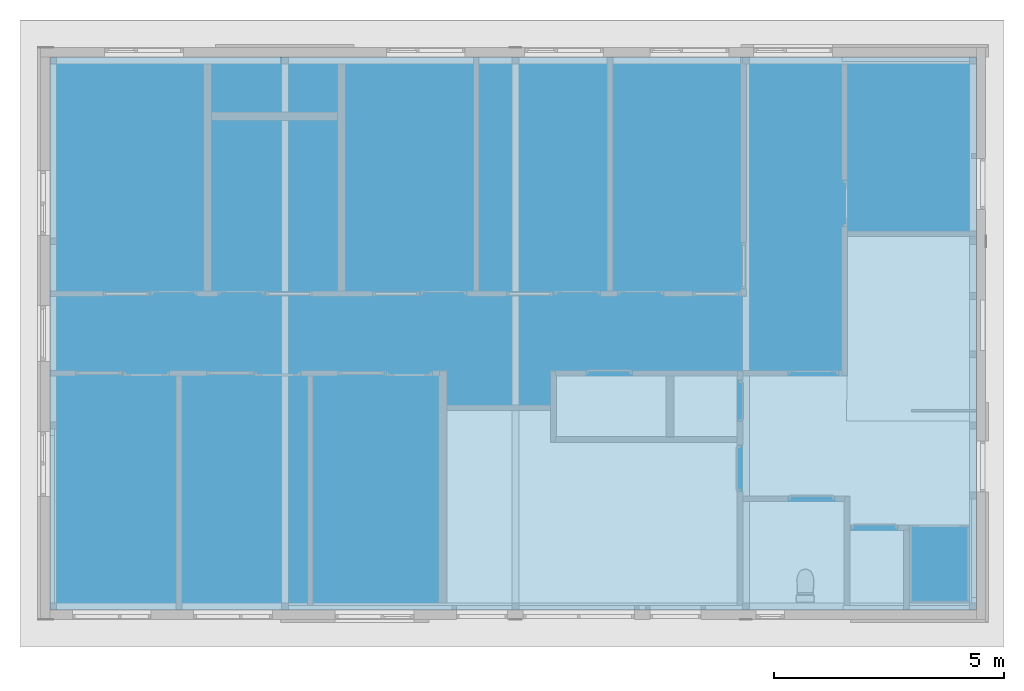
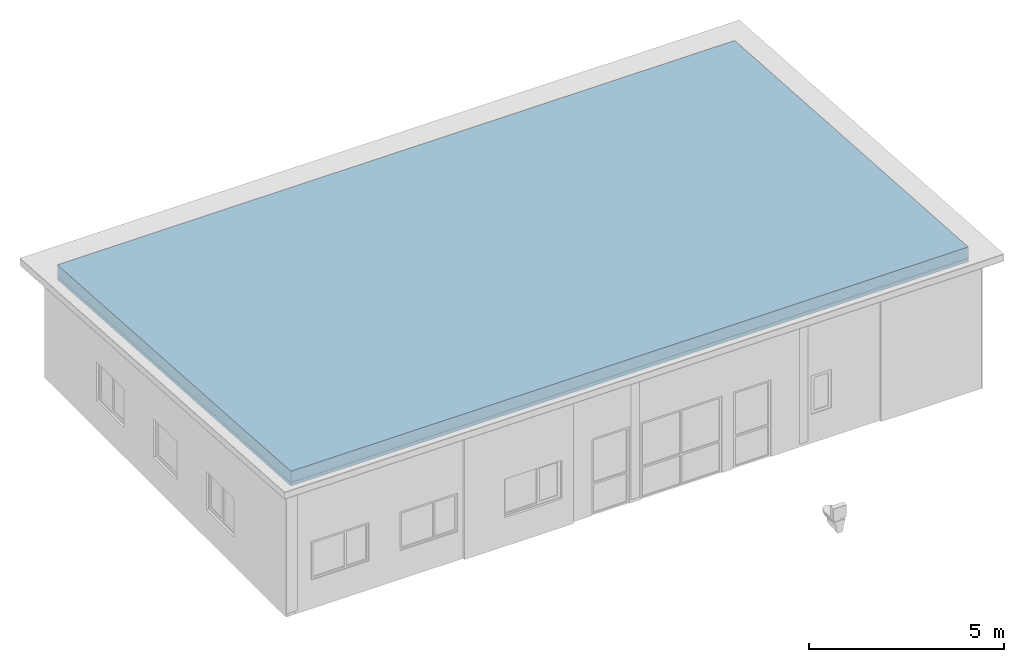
# One storey, part 33 of 37: 2 building element parts, 2 elements without a shape of their own.
"""IFC2X3 building model written with IfcOpenShell, lengths in millimetres."""

from ifc_helpers import new_model, entity, si_unit, converted_unit, frame, origin, origin_with_axes, place, context, subcontext, project, spatial, faceted_brep, material, element, aggregate, save


model = new_model("IFC2X3")

# Units and contexts
model_context = context("Model", 3, precision=1e-05, world=origin())
plan_context = context("Plan", 3, precision=1e-05, world=origin())
body_context = subcontext(model_context, "Body", "Model", "MODEL_VIEW")
ifc_project = project(units=[si_unit("LENGTHUNIT", "METRE", prefix="MILLI"), converted_unit("PLANEANGLEUNIT", "DEGREE", entity("IfcPlaneAngleMeasure", 0.0174532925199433), si_unit("PLANEANGLEUNIT", "RADIAN"), dimensions=[0, 0, 0, 0, 0, 0, 0]), si_unit("AREAUNIT", "SQUARE_METRE"), si_unit("VOLUMEUNIT", "CUBIC_METRE")], contexts=[model_context, plan_context])

# Building, storey
building_placement = place(None, origin())
building = spatial("IfcBuilding", under=ifc_project, at=building_placement, Name="HEKF Administrasjonbygg", CompositionType="ELEMENT")
storey_placement = place(building_placement, frame((0.0, 0.0, 9900.0), z_axis=(0.0, 0.0, 1.0), x_axis=(1.0, 0.0, 0.0)))
storey = spatial("IfcBuildingStorey", under=building, at=storey_placement, Name="Plan 2", CompositionType="ELEMENT", Elevation=9900.0)

# Roof, slab, building element parts
roof_placement = place(storey_placement, frame((0.0, 0.0, -9900.0), z_axis=(0.0, 0.0, 1.0), x_axis=(1.0, 0.0, 0.0)))
roof = element("IfcRoof", 1, at=roof_placement, inside=storey, ShapeType="NOTDEFINED")
slab_placement = place(roof_placement, origin_with_axes())
slab = element("IfcSlab", 2, at=slab_placement, PredefinedType="ROOF")
aggregate(roof, [slab])
ifc_material_1 = material(Name="Rockwool")
building_element_part_1_placement = place(slab_placement, origin_with_axes())
building_element_part_1 = element("IfcBuildingElementPart", 3, at=building_element_part_1_placement, material=ifc_material_1, context=body_context, shape_type="Brep", body=[
    faceted_brep([(30001.15670311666, -12000.0, 13911.24639319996), (30001.15670311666, -8346.305378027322, 13667.66675173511), (29998.93546079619, -6.366462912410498e-12, 13111.24639319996), (9899.999999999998, 0.0, 13111.24639319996), (9899.999999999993, -12000.0, 13911.24639319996), (30001.15670311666, -12000.0, 14262.02330869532), (9899.999999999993, -12000.0, 14262.02330869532), (9899.999999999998, 0.0, 13462.02330869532), (29998.93546079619, -6.366462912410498e-12, 13462.02330869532), (30001.15670311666, -8346.305378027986, 14018.44366723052), (30001.15670311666, -8346.305378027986, 14018.44366723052), (29998.93546079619, -6.366462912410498e-12, 13462.02330869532), (29998.93546079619, -6.366462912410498e-12, 13111.24639319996), (30001.15670311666, -8346.305378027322, 13667.66675173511), (29998.93546079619, -6.366462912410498e-12, 13462.02330869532), (9899.999999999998, 0.0, 13462.02330869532), (9899.999999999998, 0.0, 13111.24639319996), (29998.93546079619, -6.366462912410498e-12, 13111.24639319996), (9899.999999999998, 0.0, 13462.02330869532), (9899.999999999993, -12000.0, 14262.02330869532), (9899.999999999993, -12000.0, 13911.24639319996), (9899.999999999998, 0.0, 13111.24639319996), (9899.999999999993, -12000.0, 14262.02330869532), (30001.15670311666, -12000.0, 14262.02330869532), (30001.15670311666, -12000.0, 13911.24639319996), (9899.999999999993, -12000.0, 13911.24639319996), (30001.15670311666, -12000.0, 14262.02330869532), (30001.15670311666, -8346.305378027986, 14018.44366723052), (30001.15670311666, -8346.305378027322, 13667.66675173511), (30001.15670311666, -12000.0, 13911.24639319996)], [[[0, 1, 2, 3, 4]], [[5, 6, 7, 8, 9]], [[10, 11, 12, 13]], [[14, 15, 16, 17]], [[18, 19, 20, 21]], [[22, 23, 24, 25]], [[26, 27, 28, 29]]], orient=[[False], [False], [False], [False], [False], [False], [False]]),
])
ifc_material_2 = material(Name="P111")
building_element_part_2_placement = place(slab_placement, origin_with_axes())
building_element_part_2 = element("IfcBuildingElementPart", 4, at=building_element_part_2_placement, material=ifc_material_2, context=body_context, shape_type="Brep", body=[
    faceted_brep([(30001.15670311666, -12000.0, 13800.0), (30001.15670311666, -8346.305378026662, 13556.42035853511), (29998.93546079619, -6.366462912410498e-12, 13000.0), (9899.999999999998, 0.0, 13000.0), (9899.999999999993, -12000.0, 13800.0), (30001.15670311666, -12000.0, 13911.24639319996), (9899.999999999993, -12000.0, 13911.24639319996), (9899.999999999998, 0.0, 13111.24639319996), (29998.93546079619, -6.366462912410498e-12, 13111.24639319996), (30001.15670311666, -8346.305378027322, 13667.66675173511), (30001.15670311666, -8346.305378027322, 13667.66675173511), (29998.93546079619, -6.366462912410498e-12, 13111.24639319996), (29998.93546079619, -6.366462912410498e-12, 13000.0), (30001.15670311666, -8346.305378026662, 13556.42035853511), (29998.93546079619, -6.366462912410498e-12, 13111.24639319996), (9899.999999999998, 0.0, 13111.24639319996), (9899.999999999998, 0.0, 13000.0), (29998.93546079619, -6.366462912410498e-12, 13000.0), (9899.999999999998, 0.0, 13111.24639319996), (9899.999999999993, -12000.0, 13911.24639319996), (9899.999999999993, -12000.0, 13800.0), (9899.999999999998, 0.0, 13000.0), (9899.999999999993, -12000.0, 13911.24639319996), (30001.15670311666, -12000.0, 13911.24639319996), (30001.15670311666, -12000.0, 13800.0), (9899.999999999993, -12000.0, 13800.0), (30001.15670311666, -12000.0, 13911.24639319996), (30001.15670311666, -8346.305378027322, 13667.66675173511), (30001.15670311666, -8346.305378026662, 13556.42035853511), (30001.15670311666, -12000.0, 13800.0)], [[[0, 1, 2, 3, 4]], [[5, 6, 7, 8, 9]], [[10, 11, 12, 13]], [[14, 15, 16, 17]], [[18, 19, 20, 21]], [[22, 23, 24, 25]], [[26, 27, 28, 29]]], orient=[[False], [False], [False], [False], [False], [False], [False]]),
])
aggregate(slab, [building_element_part_1, building_element_part_2])

save(model, "model.ifc")
